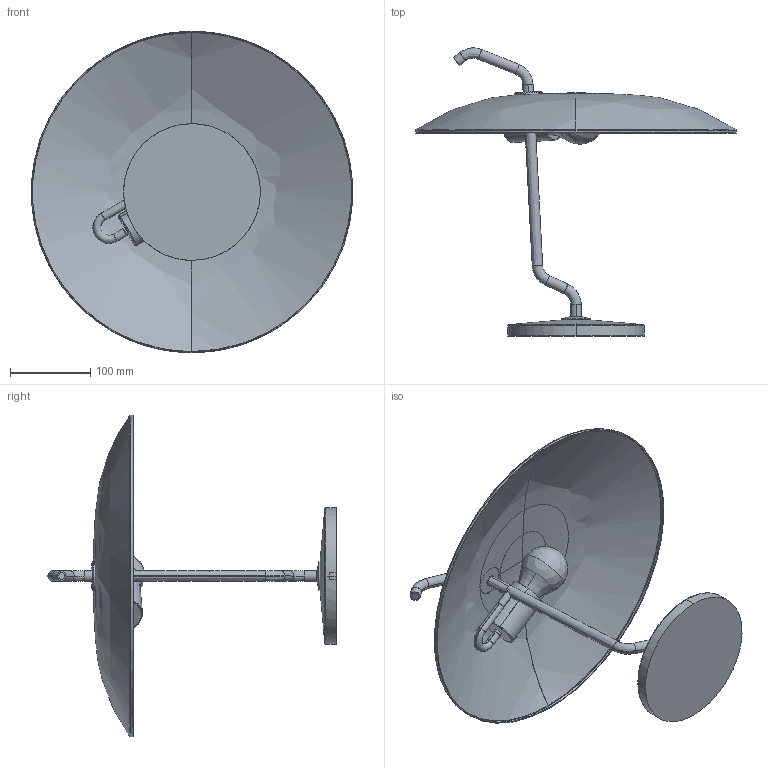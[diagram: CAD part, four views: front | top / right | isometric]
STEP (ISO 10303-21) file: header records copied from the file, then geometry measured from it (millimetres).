
FILE_DESCRIPTION(/* description */ (''),/* implementation_level */ '2;1');
FILE_NAME(/* name */ 'Model 537',/* time_stamp */ '2019-05-24T11:23:45+02:00',/* author */ (''),/* organization */ (''),/* preprocessor_version */ 'ST-DEVELOPER v15',/* originating_system */ '',/* authorisation */ '');
FILE_SCHEMA (('AUTOMOTIVE_DESIGN'));
Length unit declared in the file: millimetre
Products named in the file (1): Document
Bounding box: 399.58 x 358.62 x 400 mm (x, y, z)
Volume: 717050.2 mm3; surface area: 411287.5 mm2
Topology: 8 solids, 9 shells, 170 faces, 395 edges, 237 vertices
Faces by surface type: bspline 148, plane 22
Entity records: 10335 total; most frequent: CARTESIAN_POINT 8122, ORIENTED_EDGE 769, EDGE_CURVE 385, VERTEX_POINT 237, EDGE_LOOP 183, ADVANCED_FACE 170, FACE_OUTER_BOUND 170, B_SPLINE_CURVE_WITH_KNOTS 91
